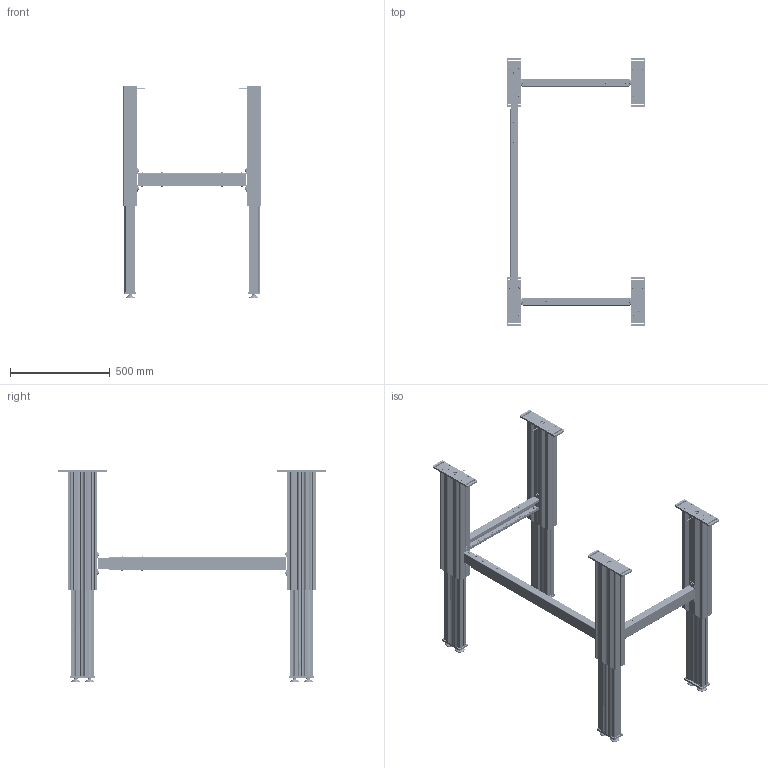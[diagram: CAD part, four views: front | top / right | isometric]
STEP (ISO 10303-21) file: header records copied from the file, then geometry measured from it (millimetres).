
FILE_DESCRIPTION(/* description */ ('Unknown','CAx-IF Rec.Pracs.---Representation and Presentation of Product Manufacturing Information (PMI)---4.0---2014-10-13','CAx-IF Rec.Pracs.---3D Tessellated Geometry---0.4---2014-09-14','2;1'),/* implementation_level */ '2;1');
FILE_NAME(/* name */ '108.00324_00-Ausgefahren',/* time_stamp */ '2022-08-30T16:41:34+02:00',/* author */ ('Unknown'),/* organization */ ('Unknown'),/* preprocessor_version */ 'ST-DEVELOPER v18.102',/* originating_system */ 'Solid Edge',/* authorisation */ 'Unknown');
FILE_SCHEMA (('AP242_MANAGED_MODEL_BASED_3D_ENGINEERING_MIM_LF { 1 0 10303 442 1 1 4 }'));
Products named in the file (47): 108.00324; 306.00814_oa_0; 126.00147; 119.00312; 119.00311; 142.00166; 142.00343; 113.00002; 124.00123; 142.00081; 142.00031; 109.00025_oa_1; 125.00063; 115.00008_oa_2; 125.00021; 125.00022; 127.00329; 113.00006; 113.00006-ohne Mutter; Mutter M10; 306.00814_oa_3; 109.00025_oa_4; 115.00008_oa_5; 306.00814_oa_6; 109.00025_oa_7; 115.00008_oa_8; 306.00814_oa_9; 109.00025_oa_10; 115.00008_oa_11; 127.00631; 096599~1; 096600~1; Sechskantmutter M6 DIN 934; Scheibe Ø6,4 DIN 125; Halbrundkopfschraube mit Innensechskant M8x12 ISO 7380-1; Scheibe Ø8,4 DIN 125; Nutenstein M8_montiert; Halbrundkopfschraube mit Innensechskant und Bund M6x16 ISO 7380-2; 127.00632; 096611~1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
Assembly tree (145 placements, depth 4):
  108.00324
    306.00814_oa_0
      126.00147
      119.00312
      119.00311
      142.00166  x4
      142.00343  x2
      113.00002
      124.00123
      142.00081
      142.00031
      109.00025_oa_1
        125.00063
        115.00008_oa_2
        125.00021
        125.00022
    127.00329  x4
    113.00006  x8
      113.00006-ohne Mutter
      Mutter M10
    306.00814_oa_3
      126.00147
      119.00312
      119.00311
      142.00166  x4
      142.00343  x2
      113.00002
      124.00123
      142.00081
      142.00031
      109.00025_oa_4
        125.00063
        115.00008_oa_5
        125.00021
        125.00022
    306.00814_oa_6
      126.00147
      119.00312
      119.00311
      142.00166  x4
      142.00343  x2
      113.00002
      124.00123
      142.00081
      142.00031
      109.00025_oa_7
        125.00063
        115.00008_oa_8
        125.00021
        125.00022
    306.00814_oa_9
      126.00147
      119.00312
      119.00311
      142.00166  x4
      142.00343  x2
      113.00002
      124.00123
      142.00081
      142.00031
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Bounding box: 690 x 1350 x 1070 mm (x, y, z)
Volume: 12324753.2 mm3; surface area: 6431807 mm2
Topology: 162 solids, 162 shells, 12448 faces, 35122 edges, 23206 vertices
Faces by surface type: plane 6712, cylinder 4984, cone 304, torus 288, bspline 148, sphere 12
Full cylindrical faces by diameter (mm): 1.8 x8, 2.2 x4, 3 x4, 3.242 x8, 3.4 x4, 3.5 x4, 4 x12, 4.1 x8, 4.2 x4, 4.9 x8, 5 x20, 5.5 x16, 6 x28, 6.4 x12, 6.5 x4, 6.6 x20, 6.647 x12, 6.917 x8, 8 x32, 8.376 x20, 8.5 x64, 8.7 x16, 9.5 x8, 10 x12, 12 x12, 12.5 x24, 13 x8, 13.5 x4, 13.6 x12, 14 x12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
Entity records: 113791 total; most frequent: CARTESIAN_POINT 19892, ORIENTED_EDGE 17008, DIRECTION 16964, EDGE_CURVE 8504, AXIS2_PLACEMENT_3D 5731, VERTEX_POINT 5730, LINE 5502, VECTOR 5502
